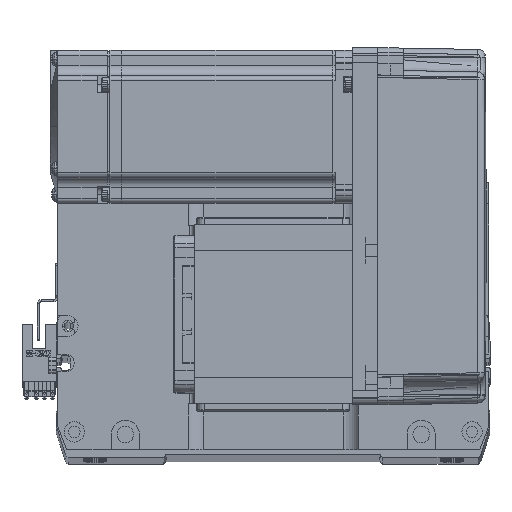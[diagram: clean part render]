
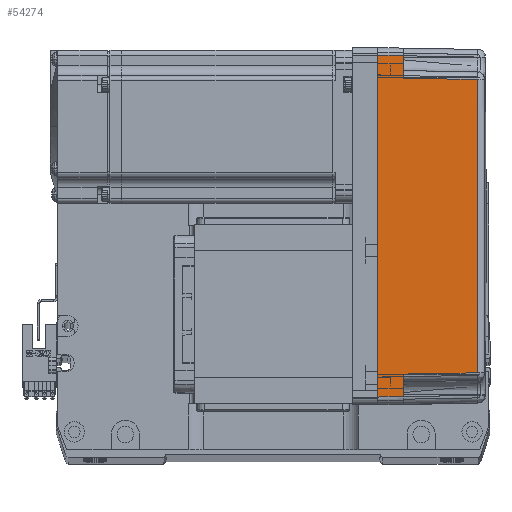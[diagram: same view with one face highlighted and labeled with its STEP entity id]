
A CAD part, top view. The second image highlights one B-rep face of the part: STEP entity #54274.
In plain terms, the highlighted planar face has unit normal (0.018, 0, 1) as drawn and (0, -1, 0.017) by its records, which use the part's own axes.
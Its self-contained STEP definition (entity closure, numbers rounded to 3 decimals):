
#282 = LINE ( 'NONE', #9884, #16019 ) ;
#720 = VERTEX_POINT ( 'NONE', #26578 ) ;
#735 = CARTESIAN_POINT ( 'NONE',  ( 70., -35.825, 10. ) ) ;
#1842 = AXIS2_PLACEMENT_3D ( 'NONE', #47887, #22940, #42185 ) ;
#2254 = CARTESIAN_POINT ( 'NONE',  ( 57.495, -35.32, 38.985 ) ) ;
#2609 = EDGE_LOOP ( 'NONE', ( #52470, #39039, #62847, #12950, #45412, #15808, #52034, #48232 ) ) ;
#3434 = EDGE_CURVE ( 'NONE', #9496, #35931, #23386, .T. ) ;
#3883 = FACE_OUTER_BOUND ( 'NONE', #2609, .T. ) ;
#3913 = EDGE_CURVE ( 'NONE', #58775, #4406, #17155, .T. ) ;
#4406 = VERTEX_POINT ( 'NONE', #59142 ) ;
#4918 = VECTOR ( 'NONE', #61419, 1000. ) ;
#5049 = DIRECTION ( 'NONE',  ( -1., 0., 0. ) ) ;
#6445 = DIRECTION ( 'NONE',  ( -1., 0., 0. ) ) ;
#7340 = CARTESIAN_POINT ( 'NONE',  ( -67., -36., 0. ) ) ;
#9496 = VERTEX_POINT ( 'NONE', #41450 ) ;
#9884 = CARTESIAN_POINT ( 'NONE',  ( 70., -35.825, 10. ) ) ;
#10331 = DIRECTION ( 'NONE',  ( -0.017, 0.017, 1. ) ) ;
#10687 = CARTESIAN_POINT ( 'NONE',  ( 66.826, -35.825, 10. ) ) ;
#12398 = PLANE ( 'NONE',  #1842 ) ;
#12950 = ORIENTED_EDGE ( 'NONE', *, *, #63267, .T. ) ;
#13725 = VERTEX_POINT ( 'NONE', #51369 ) ;
#14685 = VERTEX_POINT ( 'NONE', #10687 ) ;
#15038 = EDGE_CURVE ( 'NONE', #4406, #720, #282, .T. ) ;
#15808 = ORIENTED_EDGE ( 'NONE', *, *, #15038, .T. ) ;
#16019 = VECTOR ( 'NONE', #5049, 1000. ) ;
#17155 = LINE ( 'NONE', #63262, #55732 ) ;
#18715 = CARTESIAN_POINT ( 'NONE',  ( 0., -36., 0. ) ) ;
#19247 = EDGE_CURVE ( 'NONE', #9496, #14685, #43614, .T. ) ;
#21842 = DIRECTION ( 'NONE',  ( -0.017, 0.017, 1. ) ) ;
#22940 = DIRECTION ( 'NONE',  ( 0., -1., 0.017 ) ) ;
#23386 = LINE ( 'NONE', #18715, #58908 ) ;
#23524 = CARTESIAN_POINT ( 'NONE',  ( -57.495, -35.32, 38.985 ) ) ;
#23838 = CARTESIAN_POINT ( 'NONE',  ( -19.165, -35.316, 39.181 ) ) ;
#23856 = EDGE_CURVE ( 'NONE', #13725, #43055, #40574, .T. ) ;
#24289 = CARTESIAN_POINT ( 'NONE',  ( -57.495, -35.32, 38.985 ) ) ;
#25192 = CARTESIAN_POINT ( 'NONE',  ( 67., -36., 0. ) ) ;
#26578 = CARTESIAN_POINT ( 'NONE',  ( -66.826, -35.825, 10. ) ) ;
#29250 = DIRECTION ( 'NONE',  ( -1., 0., 0. ) ) ;
#32590 = VECTOR ( 'NONE', #6445, 1000. ) ;
#34824 = EDGE_CURVE ( 'NONE', #35931, #720, #59225, .T. ) ;
#35021 = CARTESIAN_POINT ( 'NONE',  ( 58., -35.825, 10. ) ) ;
#35931 = VERTEX_POINT ( 'NONE', #7340 ) ;
#39039 = ORIENTED_EDGE ( 'NONE', *, *, #49085, .T. ) ;
#39719 = VECTOR ( 'NONE', #21842, 1000. ) ;
#40574 = LINE ( 'NONE', #35021, #57112 ) ;
#41450 = CARTESIAN_POINT ( 'NONE',  ( 67., -36., 0. ) ) ;
#42185 = DIRECTION ( 'NONE',  ( 0., -0.017, -1. ) ) ;
#43055 = VERTEX_POINT ( 'NONE', #2254 ) ;
#43614 = LINE ( 'NONE', #25192, #39719 ) ;
#43944 = CARTESIAN_POINT ( 'NONE',  ( 19.165, -35.316, 39.181 ) ) ;
#44362 = CARTESIAN_POINT ( 'NONE',  ( 57.495, -35.32, 38.985 ) ) ;
#45412 = ORIENTED_EDGE ( 'NONE', *, *, #3913, .T. ) ;
#47071 = CARTESIAN_POINT ( 'NONE',  ( -66.959, -35.958, 2.39 ) ) ;
#47887 = CARTESIAN_POINT ( 'NONE',  ( 70., -36., 0. ) ) ;
#48232 = ORIENTED_EDGE ( 'NONE', *, *, #3434, .F. ) ;
#49085 = EDGE_CURVE ( 'NONE', #14685, #13725, #58672, .T. ) ;
#51369 = CARTESIAN_POINT ( 'NONE',  ( 58., -35.825, 10. ) ) ;
#52034 = ORIENTED_EDGE ( 'NONE', *, *, #34824, .F. ) ;
#52470 = ORIENTED_EDGE ( 'NONE', *, *, #19247, .T. ) ;
#53210 = B_SPLINE_CURVE_WITH_KNOTS ( 'NONE', 3,
 ( #44362, #43944, #23838, #24289 ),
 .UNSPECIFIED., .F., .F.,
 ( 4, 4 ),
 ( 0., 1. ),
 .UNSPECIFIED. ) ;
#54274 = ADVANCED_FACE ( 'NONE', ( #3883 ), #12398, .T. ) ;
#55732 = VECTOR ( 'NONE', #58804, 1000. ) ;
#57112 = VECTOR ( 'NONE', #10331, 1000. ) ;
#58672 = LINE ( 'NONE', #735, #32590 ) ;
#58775 = VERTEX_POINT ( 'NONE', #23524 ) ;
#58804 = DIRECTION ( 'NONE',  ( -0.017, -0.017, -1. ) ) ;
#58908 = VECTOR ( 'NONE', #29250, 1000. ) ;
#59142 = CARTESIAN_POINT ( 'NONE',  ( -58., -35.825, 10. ) ) ;
#59225 = LINE ( 'NONE', #47071, #4918 ) ;
#61419 = DIRECTION ( 'NONE',  ( 0.017, 0.017, 1. ) ) ;
#62847 = ORIENTED_EDGE ( 'NONE', *, *, #23856, .T. ) ;
#63262 = CARTESIAN_POINT ( 'NONE',  ( -57.495, -35.32, 38.985 ) ) ;
#63267 = EDGE_CURVE ( 'NONE', #43055, #58775, #53210, .T. ) ;
